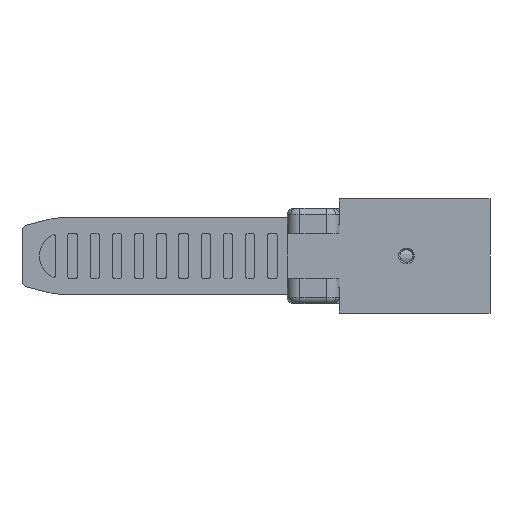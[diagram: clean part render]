
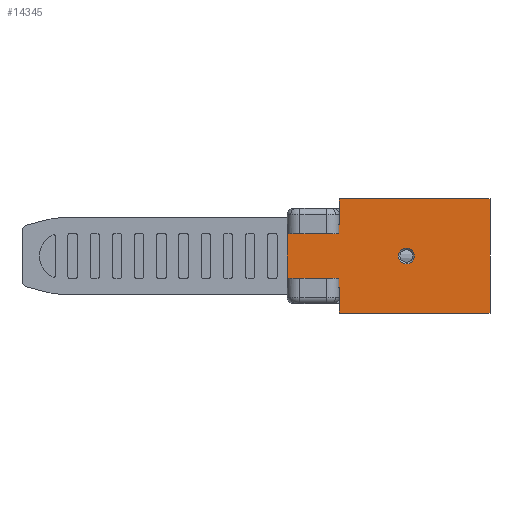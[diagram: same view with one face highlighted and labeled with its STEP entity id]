
A CAD part, front view. The second image highlights one B-rep face of the part: STEP entity #14345.
In plain terms, the highlighted planar face has unit normal (0, -1, 0).
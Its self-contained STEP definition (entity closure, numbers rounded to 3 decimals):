
#173 = CARTESIAN_POINT ( 'NONE',  ( -1.3, -5., 9. ) ) ;
#388 = VERTEX_POINT ( 'NONE', #15160 ) ;
#399 = CARTESIAN_POINT ( 'NONE',  ( -1.3, -5., 9. ) ) ;
#445 = VECTOR ( 'NONE', #6278, 1000. ) ;
#826 = DIRECTION ( 'NONE',  ( 1., 0., 0. ) ) ;
#1195 = DIRECTION ( 'NONE',  ( 0., 1., 0. ) ) ;
#1319 = ORIENTED_EDGE ( 'NONE', *, *, #1707, .F. ) ;
#1536 = EDGE_CURVE ( 'NONE', #11199, #9061, #7677, .T. ) ;
#1581 = ORIENTED_EDGE ( 'NONE', *, *, #9784, .F. ) ;
#1707 = EDGE_CURVE ( 'NONE', #11357, #11984, #15791, .T. ) ;
#1718 = VECTOR ( 'NONE', #15038, 1000. ) ;
#1784 = VERTEX_POINT ( 'NONE', #16477 ) ;
#2002 = EDGE_CURVE ( 'NONE', #7572, #11984, #13219, .T. ) ;
#2077 = DIRECTION ( 'NONE',  ( 0., 0., -1. ) ) ;
#2695 = AXIS2_PLACEMENT_3D ( 'NONE', #14764, #6592, #16156 ) ;
#3122 = CARTESIAN_POINT ( 'NONE',  ( -9.5, -5., 4.95 ) ) ;
#3254 = DIRECTION ( 'NONE',  ( 1., 0., 0. ) ) ;
#3258 = CIRCLE ( 'NONE', #11187, 1.25 ) ;
#3397 = EDGE_CURVE ( 'NONE', #11357, #9225, #12917, .T. ) ;
#3759 = FACE_BOUND ( 'NONE', #16773, .T. ) ;
#3870 = PLANE ( 'NONE',  #13653 ) ;
#4368 = ORIENTED_EDGE ( 'NONE', *, *, #14131, .T. ) ;
#4549 = LINE ( 'NONE', #3122, #16913 ) ;
#5029 = ORIENTED_EDGE ( 'NONE', *, *, #3397, .T. ) ;
#5529 = LINE ( 'NONE', #15609, #12364 ) ;
#5607 = CARTESIAN_POINT ( 'NONE',  ( 22.5, -5., 9. ) ) ;
#6205 = DIRECTION ( 'NONE',  ( 0., 0., -1. ) ) ;
#6223 = CARTESIAN_POINT ( 'NONE',  ( 9.3, -5., 0. ) ) ;
#6278 = DIRECTION ( 'NONE',  ( 0., 0., -1. ) ) ;
#6574 = VERTEX_POINT ( 'NONE', #173 ) ;
#6588 = CARTESIAN_POINT ( 'NONE',  ( -9.5, -5., -4.95 ) ) ;
#6592 = DIRECTION ( 'NONE',  ( 0., -1., 0. ) ) ;
#6954 = LINE ( 'NONE', #17140, #13816 ) ;
#7282 = LINE ( 'NONE', #15597, #10516 ) ;
#7493 = CARTESIAN_POINT ( 'NONE',  ( 22.5, -5., -9. ) ) ;
#7520 = CARTESIAN_POINT ( 'NONE',  ( 9.3, -5., -1.25 ) ) ;
#7572 = VERTEX_POINT ( 'NONE', #12076 ) ;
#7581 = DIRECTION ( 'NONE',  ( 0., 0., -1. ) ) ;
#7677 = LINE ( 'NONE', #14794, #445 ) ;
#7790 = FACE_OUTER_BOUND ( 'NONE', #16588, .T. ) ;
#8266 = ORIENTED_EDGE ( 'NONE', *, *, #2002, .T. ) ;
#8429 = EDGE_CURVE ( 'NONE', #6574, #388, #5529, .T. ) ;
#8542 = DIRECTION ( 'NONE',  ( 1., 0., 0. ) ) ;
#8694 = CARTESIAN_POINT ( 'NONE',  ( -1.3, -5., -4.95 ) ) ;
#9061 = VERTEX_POINT ( 'NONE', #7493 ) ;
#9225 = VERTEX_POINT ( 'NONE', #10681 ) ;
#9268 = VECTOR ( 'NONE', #9931, 1000. ) ;
#9336 = CARTESIAN_POINT ( 'NONE',  ( -9.5, -5., 9. ) ) ;
#9470 = CIRCLE ( 'NONE', #2695, 1.25 ) ;
#9784 = EDGE_CURVE ( 'NONE', #14788, #1784, #9470, .T. ) ;
#9931 = DIRECTION ( 'NONE',  ( 0., 0., -1. ) ) ;
#10264 = EDGE_CURVE ( 'NONE', #6574, #11199, #7282, .T. ) ;
#10516 = VECTOR ( 'NONE', #3254, 1000. ) ;
#10681 = CARTESIAN_POINT ( 'NONE',  ( -1.3, -5., -9. ) ) ;
#10720 = DIRECTION ( 'NONE',  ( 0., 0., 1. ) ) ;
#11032 = ORIENTED_EDGE ( 'NONE', *, *, #8429, .T. ) ;
#11187 = AXIS2_PLACEMENT_3D ( 'NONE', #6223, #15762, #7581 ) ;
#11199 = VERTEX_POINT ( 'NONE', #5607 ) ;
#11357 = VERTEX_POINT ( 'NONE', #8694 ) ;
#11676 = ORIENTED_EDGE ( 'NONE', *, *, #10264, .F. ) ;
#11984 = VERTEX_POINT ( 'NONE', #6588 ) ;
#12076 = CARTESIAN_POINT ( 'NONE',  ( -9.5, -5., 4.95 ) ) ;
#12346 = EDGE_CURVE ( 'NONE', #7572, #388, #4549, .T. ) ;
#12364 = VECTOR ( 'NONE', #2077, 1000. ) ;
#12782 = VECTOR ( 'NONE', #6205, 1000. ) ;
#12917 = LINE ( 'NONE', #399, #9268 ) ;
#13011 = CARTESIAN_POINT ( 'NONE',  ( -9.5, -5., 9. ) ) ;
#13219 = LINE ( 'NONE', #13011, #12782 ) ;
#13653 = AXIS2_PLACEMENT_3D ( 'NONE', #9336, #1195, #10720 ) ;
#13816 = VECTOR ( 'NONE', #826, 1000. ) ;
#14131 = EDGE_CURVE ( 'NONE', #9225, #9061, #6954, .T. ) ;
#14345 = ADVANCED_FACE ( 'NONE', ( #3759, #7790 ), #3870, .F. ) ;
#14563 = ORIENTED_EDGE ( 'NONE', *, *, #1536, .F. ) ;
#14639 = ORIENTED_EDGE ( 'NONE', *, *, #12346, .F. ) ;
#14764 = CARTESIAN_POINT ( 'NONE',  ( 9.3, -5., 0. ) ) ;
#14788 = VERTEX_POINT ( 'NONE', #7520 ) ;
#14794 = CARTESIAN_POINT ( 'NONE',  ( 22.5, -5., 9. ) ) ;
#15038 = DIRECTION ( 'NONE',  ( -1., 0., 0. ) ) ;
#15160 = CARTESIAN_POINT ( 'NONE',  ( -1.3, -5., 4.95 ) ) ;
#15503 = EDGE_CURVE ( 'NONE', #1784, #14788, #3258, .T. ) ;
#15597 = CARTESIAN_POINT ( 'NONE',  ( -9.5, -5., 9. ) ) ;
#15609 = CARTESIAN_POINT ( 'NONE',  ( -1.3, -5., 9. ) ) ;
#15762 = DIRECTION ( 'NONE',  ( 0., -1., 0. ) ) ;
#15791 = LINE ( 'NONE', #17656, #1718 ) ;
#16156 = DIRECTION ( 'NONE',  ( 0., 0., -1. ) ) ;
#16477 = CARTESIAN_POINT ( 'NONE',  ( 9.3, -5., 1.25 ) ) ;
#16588 = EDGE_LOOP ( 'NONE', ( #1319, #5029, #4368, #14563, #11676, #11032, #14639, #8266 ) ) ;
#16644 = ORIENTED_EDGE ( 'NONE', *, *, #15503, .F. ) ;
#16773 = EDGE_LOOP ( 'NONE', ( #1581, #16644 ) ) ;
#16913 = VECTOR ( 'NONE', #8542, 1000. ) ;
#17140 = CARTESIAN_POINT ( 'NONE',  ( -9.5, -5., -9. ) ) ;
#17656 = CARTESIAN_POINT ( 'NONE',  ( -9.5, -5., -4.95 ) ) ;
